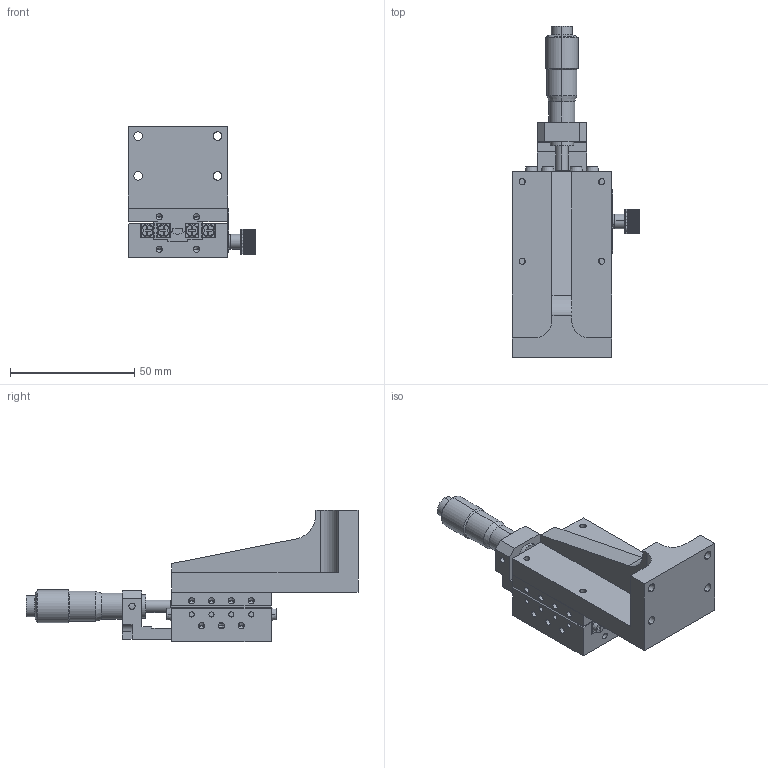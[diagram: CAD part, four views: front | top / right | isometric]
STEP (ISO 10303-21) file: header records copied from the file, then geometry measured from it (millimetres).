
FILE_DESCRIPTION (( 'STEP AP203' ), '1' );
FILE_NAME ('JCZ-40C.STEP', '2019-02-12T01:12:23', ( 'Windows 餌辨濠' ), ( '' ), 'SwSTEP 2.0', 'SolidWorks 2018', '' );
FILE_SCHEMA (( 'CONFIG_CONTROL_DESIGN' ));
Length unit declared in the file: millimetre
Products named in the file (11): FC-SJ-3; FB-JCX40(20H)(JV2-40)-BD-01; FB-JCX-BK-Z-02; FC-PL-26X18; JALB-72-R; JV2-40-8; JCX-40CRZ(2OH); JCZ-40C; FB-JCX-BK-C-01; FC-NB-10; FB-JCX40(20H)(JV2-40)-BD-02
Assembly tree (13 placements, depth 3):
  JCZ-40C
    FB-JCX-BK-Z-02
    JCX-40CRZ(2OH)
      FB-JCX40(20H)(JV2-40)-BD-02
      JV2-40-8  x4
      FB-JCX40(20H)(JV2-40)-BD-01
      FB-JCX-BK-C-01
      JALB-72-R
      FC-PL-26X18
      FC-NB-10
      FC-SJ-3
Bounding box: 51.4 x 133.7 x 53 mm (x, y, z)
Volume: 71425.6 mm3; surface area: 36963.6 mm2
Topology: 12 solids, 12 shells, 1043 faces, 2768 edges, 1727 vertices
Faces by surface type: cylinder 538, plane 407, cone 94, sphere 4
Entity records: 23561 total; most frequent: CARTESIAN_POINT 4219, DIRECTION 4044, ORIENTED_EDGE 3640, EDGE_CURVE 1820, AXIS2_PLACEMENT_3D 1570, VERTEX_POINT 1175, VECTOR 904, LINE 904
